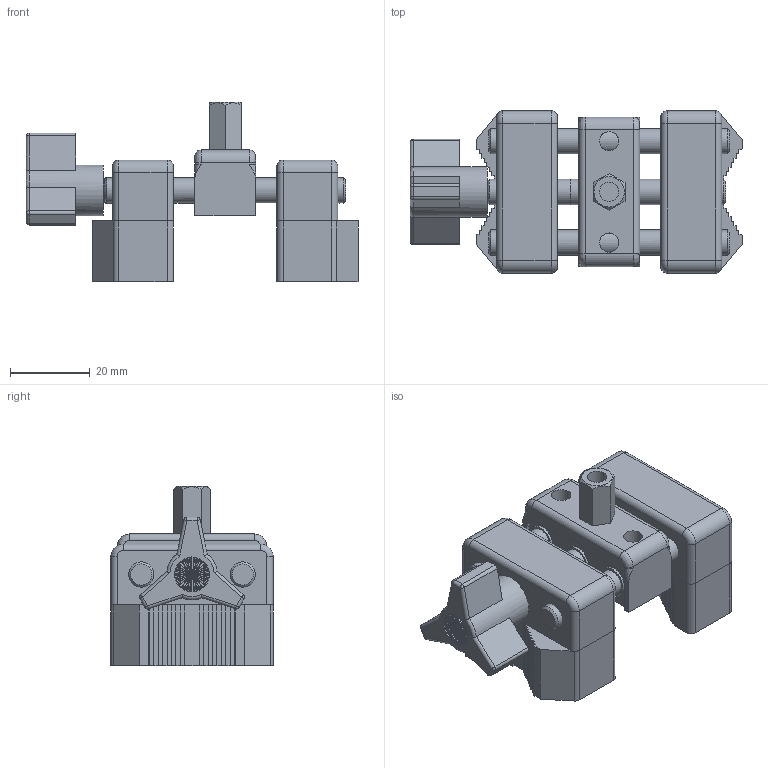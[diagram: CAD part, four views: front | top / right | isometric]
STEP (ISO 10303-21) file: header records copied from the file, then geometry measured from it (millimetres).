
FILE_DESCRIPTION((''),'2;1');
FILE_NAME('F:\CAD files\Itr\3D MARKETING MODELS\GRIPS\G1053\G1053.stp','2017-04-20T10:59:38',('mlampen'),(''),'Autodesk Inventor 2010','Autodesk Inventor 2010','');
FILE_SCHEMA(('AUTOMOTIVE_DESIGN { 1 0 10303 214 1 1 1 1 }'));
Length unit declared in the file: inch
Products named in the file (6): Assembly1; Part2; Part4; Part6; Part8; Part10
Assembly tree (5 placements, depth 2):
  Assembly1
    Part2
    Part4
    Part6
    Part8
    Part10
Bounding box: 83.13 x 40.64 x 44.96 mm (x, y, z)
Volume: 51653.4 mm3; surface area: 23612 mm2
Topology: 9 solids, 9 shells, 622 faces, 1522 edges, 972 vertices
Faces by surface type: plane 376, cylinder 167, cone 39, bspline 19, torus 15, sphere 6
Full cylindrical faces by diameter (mm): 0.127 x1, 0.381 x1, 0.635 x1, 0.889 x1, 1.041 x12, 1.143 x1, 1.397 x1, 1.651 x1, 1.905 x1, 2.159 x1, 2.413 x1, 2.667 x1, 2.921 x1, 3.175 x1, 3.429 x1, 3.683 x1, 3.81 x9, 3.937 x1, 4.191 x1, 4.445 x1, 4.699 x1, 4.826 x4, 4.953 x1, 5.207 x1, 5.461 x1, 5.715 x1, 5.842 x4, 5.969 x1, 6.223 x1, 6.342 x7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
Entity records: 18122 total; most frequent: CARTESIAN_POINT 3634, DIRECTION 3003, ORIENTED_EDGE 2764, EDGE_CURVE 1382, AXIS2_PLACEMENT_3D 1053, VERTEX_POINT 940, VECTOR 897, LINE 897
